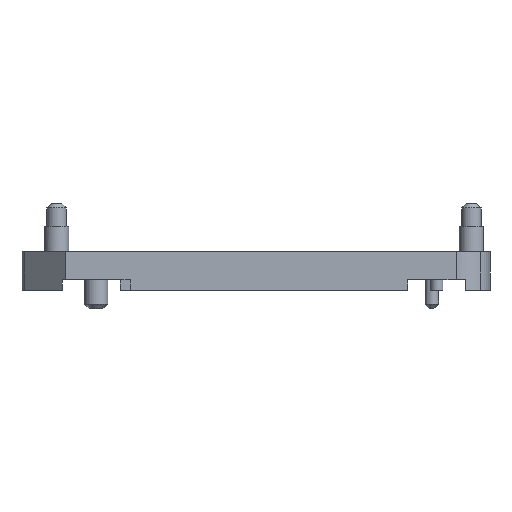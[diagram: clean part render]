
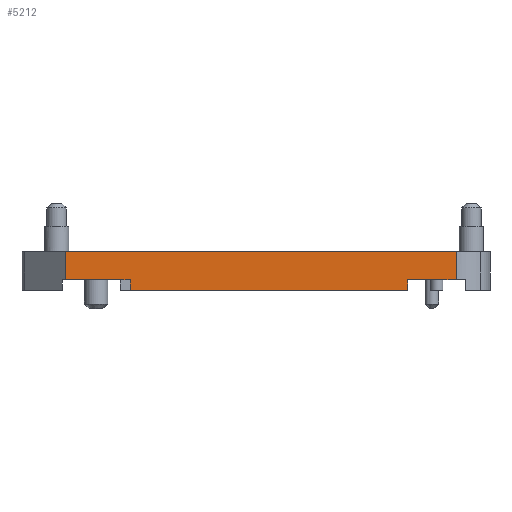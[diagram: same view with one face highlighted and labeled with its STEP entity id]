
A CAD part, front view. The second image highlights one B-rep face of the part: STEP entity #5212.
In plain terms, the highlighted planar face has unit normal (0, -1, 0).
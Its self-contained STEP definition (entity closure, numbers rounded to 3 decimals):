
#1685=CARTESIAN_POINT('',(-19.82,-19.0,2.0));
#1686=VERTEX_POINT('',#1685);
#1693=CARTESIAN_POINT('',(20.5,-19.0,2.0));
#1694=VERTEX_POINT('',#1693);
#1695=CARTESIAN_POINT('',(20.5,-19.0,2.0));
#1696=DIRECTION('',(-1.0,0.0,0.0));
#1697=VECTOR('',#1696,40.32);
#1698=LINE('',#1695,#1697);
#1699=EDGE_CURVE('',#1694,#1686,#1698,.T.);
#2632=CARTESIAN_POINT('',(-19.82,-19.0,-0.91));
#2633=VERTEX_POINT('',#2632);
#2642=CARTESIAN_POINT('',(-19.82,-19.0,2.0));
#2643=DIRECTION('',(0.0,0.0,-1.0));
#2644=VECTOR('',#2643,2.91);
#2645=LINE('',#2642,#2644);
#2646=EDGE_CURVE('',#1686,#2633,#2645,.T.);
#2696=CARTESIAN_POINT('',(-13.14,-19.0,-0.91));
#2697=VERTEX_POINT('',#2696);
#2704=CARTESIAN_POINT('',(-19.82,-19.0,-0.91));
#2705=DIRECTION('',(1.0,0.0,0.0));
#2706=VECTOR('',#2705,6.68);
#2707=LINE('',#2704,#2706);
#2708=EDGE_CURVE('',#2633,#2697,#2707,.T.);
#3664=CARTESIAN_POINT('',(20.5,-19.0,-0.91));
#3665=VERTEX_POINT('',#3664);
#3666=CARTESIAN_POINT('',(20.5,-19.0,2.0));
#3667=DIRECTION('',(0.0,0.0,-1.0));
#3668=VECTOR('',#3667,2.91);
#3669=LINE('',#3666,#3668);
#3670=EDGE_CURVE('',#1694,#3665,#3669,.T.);
#5161=CARTESIAN_POINT('',(-13.14,-19.0,-2.0));
#5162=VERTEX_POINT('',#5161);
#5169=CARTESIAN_POINT('',(-13.14,-19.0,-0.91));
#5170=DIRECTION('',(0.0,0.0,-1.0));
#5171=VECTOR('',#5170,1.09);
#5172=LINE('',#5169,#5171);
#5173=EDGE_CURVE('',#2697,#5162,#5172,.T.);
#5178=CARTESIAN_POINT('',(24.0,-19.0,-2.0));
#5179=DIRECTION('',(0.0,-1.0,0.0));
#5180=DIRECTION('',(0.0,0.0,-1.0));
#5181=AXIS2_PLACEMENT_3D('',#5178,#5179,#5180);
#5182=PLANE('',#5181);
#5183=ORIENTED_EDGE('',*,*,#2646,.T.);
#5184=ORIENTED_EDGE('',*,*,#2708,.T.);
#5185=ORIENTED_EDGE('',*,*,#5173,.T.);
#5186=CARTESIAN_POINT('',(15.5,-19.,-2.0));
#5187=VERTEX_POINT('',#5186);
#5188=CARTESIAN_POINT('',(-13.14,-19.0,-2.0));
#5189=DIRECTION('',(1.0,0.0,0.0));
#5190=VECTOR('',#5189,28.64);
#5191=LINE('',#5188,#5190);
#5192=EDGE_CURVE('',#5162,#5187,#5191,.T.);
#5193=ORIENTED_EDGE('',*,*,#5192,.T.);
#5194=CARTESIAN_POINT('',(15.5,-19.,-0.91));
#5195=VERTEX_POINT('',#5194);
#5196=CARTESIAN_POINT('',(15.5,-19.,-2.0));
#5197=DIRECTION('',(0.0,0.0,1.0));
#5198=VECTOR('',#5197,1.09);
#5199=LINE('',#5196,#5198);
#5200=EDGE_CURVE('',#5187,#5195,#5199,.T.);
#5201=ORIENTED_EDGE('',*,*,#5200,.T.);
#5202=CARTESIAN_POINT('',(15.5,-19.,-0.91));
#5203=DIRECTION('',(1.0,0.0,0.0));
#5204=VECTOR('',#5203,5.);
#5205=LINE('',#5202,#5204);
#5206=EDGE_CURVE('',#5195,#3665,#5205,.T.);
#5207=ORIENTED_EDGE('',*,*,#5206,.T.);
#5208=ORIENTED_EDGE('',*,*,#3670,.F.);
#5209=ORIENTED_EDGE('',*,*,#1699,.T.);
#5210=EDGE_LOOP('',(#5183,#5184,#5185,#5193,#5201,#5207,#5208,#5209));
#5211=FACE_OUTER_BOUND('',#5210,.T.);
#5212=ADVANCED_FACE('',(#5211),#5182,.T.);
